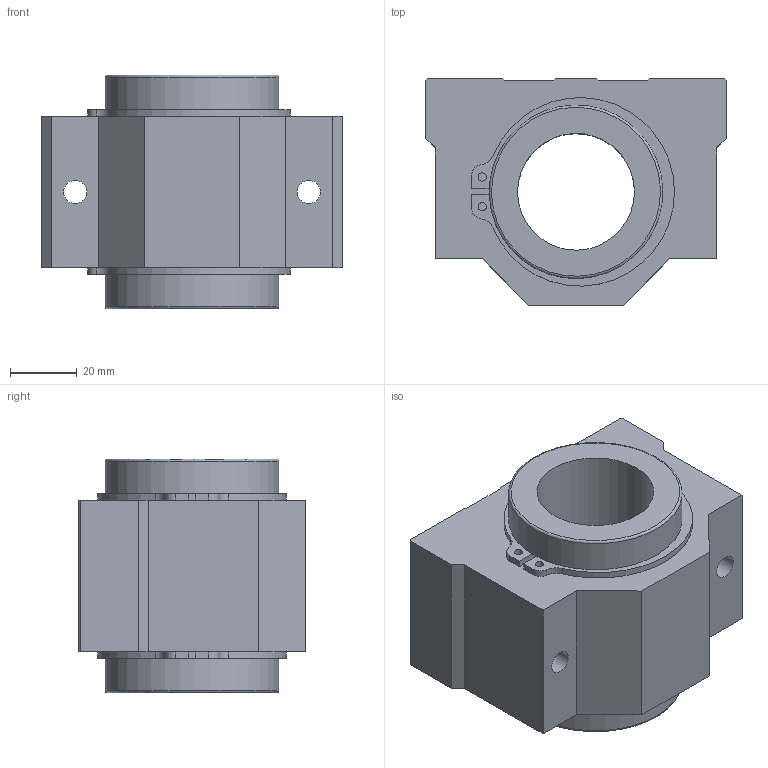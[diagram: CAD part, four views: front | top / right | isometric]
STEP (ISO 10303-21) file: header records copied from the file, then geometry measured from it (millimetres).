
FILE_DESCRIPTION(('STEP AP203'),'1');
FILE_NAME('//192.168.1.1/share/s-4 技術開発/s-4-4_CAD/s-4-4-3_見直し済み/008 修正済み/LC-C/LC-C_TOP/LC-35VCUU.step','2022-05-19T01:25:23',(' '),(' '),'Spatial InterOp 3D',' ',' ');
FILE_SCHEMA(('CONFIG_CONTROL_DESIGN'));
Length unit declared in the file: millimetre
Products named in the file (4): 1; 2; 3; 4
Bounding box: 90 x 68 x 70 mm (x, y, z)
Volume: 220249.8 mm3; surface area: 55756.6 mm2
Topology: 4 solids, 4 shells, 71 faces, 180 edges, 121 vertices
Faces by surface type: plane 42, cylinder 27, torus 2
Full cylindrical faces by diameter (mm): 2.5 x4, 7 x4, 35 x1, 49 x2, 52 x4
Entity records: 2212 total; most frequent: DIRECTION 360, CARTESIAN_POINT 345, ORIENTED_EDGE 312, EDGE_CURVE 156, AXIS2_PLACEMENT_3D 129, VERTEX_POINT 114, EDGE_LOOP 108, LINE 102
